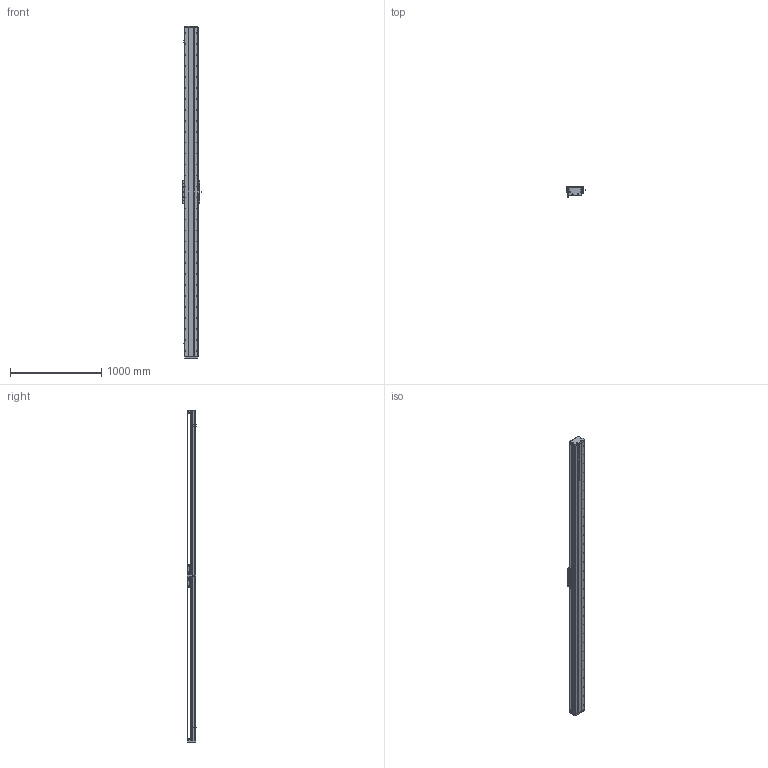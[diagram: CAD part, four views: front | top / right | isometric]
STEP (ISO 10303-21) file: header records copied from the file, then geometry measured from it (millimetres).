
FILE_DESCRIPTION (( 'STEP AP203' ), '1' );
FILE_NAME ('DA-C145-C3-T3300-C010-0.2 眻盄萇儂.STEP', '2025-08-14T01:38:22', ( '' ), ( '' ), 'SwSTEP 2.0', 'SolidWorks 2019', '' );
FILE_SCHEMA (( 'CONFIG_CONTROL_DESIGN' ));
Length unit declared in the file: millimetre
Products named in the file (32): CU145-W 幗紩賑怢; 葩璃 鞠褒情蹟譫 M3^DA-C145-C3-T-C010-0.2; 葩璃 PM-T45^DA-C145-C3-T-C010-0.2; 复件 DA146 钢带垫块^复件 CU145 钢带组件_DA-C145-C3-T-C010-0.2; TAY01-M8; 66245-CU145-HT-W-00 賑雄怢啣(3D芞祧)(00); 复件 DA145-C3-YB-A-00 压板A^CU145-W 滚珠滑台; 复件 内六角平端紧定螺钉 GB.T77-2000 M5×10^CU145-W 滚珠滑台; 复件 DA146 钢带拉块^复件 CU145 钢带组件_DA-C145-C3-T-C010-0.2; 复件 DA145-GYP-00 光电感应片^DA-C145-C3-T-C010-0.2; 葩璃 CKMA01-W060-TRL^DA-C145-C3-T-C010-0.2; 复件 DA145-C3-DK-00 挡块^CU145-W 滚珠滑台; 葩璃 DA95-HXJ-00 遣喳砎蝶^DA-C145-C3-T-C010-0.2; 葩璃 DA145-C3-DP-A-00 菜えA^CU145-W 幗紩賑怢; DA-C145-C3-T3300-C010-0.2 眻盄萇儂; 葩璃 XD-U-02L 棠掑喜^DA-C145-C3-T-C010-0.2; 复件 DA145-C3-YB-B-00 压板B^CU145-W 滚珠滑台; 复件 DA145-DG 钢带端盖^复件 CU145 钢带组件_DA-C145-C3-T-C010-0.2; 葩璃 CKM03-W060-C1C2-TP-0.2^DA-C145-C3-T-C010-0.2; 复件 半圆头内六角螺钉 M3×6^CU145-W 滚珠滑台; 复件 DA95-HK-GT-00 滑块钢轨^CU145-W-00 一体化滑动台板; 葩璃 DA95-GT-T-00^IU-CU145-L 菁釱絳寢; IU-CU145-L 菁釱絳寢; CU145-W-00 珨极趙賑雄怢啣; IU-CU145-L-00 菁釱(L3600); 复件 DA95-DB-00  挡板^CU145-W 滚珠滑台; 葩璃 DA145-C3-DP-B-00 菜えB^CU145-W 幗紩賑怢; 复件 DA145 钢带^复件 CU145 钢带组件_DA-C145-C3-T-C010-0.2; 复件 DA95-MFP-01 密封片^CU145-W 滚珠滑台; 葩璃 DMA-010-0.2 黍杅芛^DA-C145-C3-T-C010-0.2; 复件 纯铜油杯 6x6mm^CU145-W 滚珠滑台; 葩璃 CU145 詩湍郪璃^DA-C145-C3-T-C010-0.2
Assembly tree (103 placements, depth 4):
  DA-C145-C3-T3300-C010-0.2 眻盄萇儂
    IU-CU145-L 菁釱絳寢
      IU-CU145-L-00 菁釱(L3600)
      葩璃 DA95-GT-T-00^IU-CU145-L 菁釱絳寢  x4
    葩璃 CU145 詩湍郪璃^DA-C145-C3-T-C010-0.2
      复件 DA145-DG 钢带端盖^复件 CU145 钢带组件_DA-C145-C3-T-C010-0.2  x2
      复件 DA146 钢带拉块^复件 CU145 钢带组件_DA-C145-C3-T-C010-0.2  x2
      复件 DA146 钢带垫块^复件 CU145 钢带组件_DA-C145-C3-T-C010-0.2  x2
      复件 DA145 钢带^复件 CU145 钢带组件_DA-C145-C3-T-C010-0.2
    CU145-W 幗紩賑怢
      CU145-W-00 珨极趙賑雄怢啣
        66245-CU145-HT-W-00 賑雄怢啣(3D芞祧)(00)
        复件 DA95-HK-GT-00 滑块钢轨^CU145-W-00 一体化滑动台板  x8
      复件 DA95-MFP-01 密封片^CU145-W 滚珠滑台  x8
      复件 DA95-DB-00  挡板^CU145-W 滚珠滑台  x8
      复件 内六角平端紧定螺钉 GB.T77-2000 M5×10^CU145-W 滚珠滑台  x4
      复件 纯铜油杯 6x6mm^CU145-W 滚珠滑台  x4
      复件 半圆头内六角螺钉 M3×6^CU145-W 滚珠滑台  x16
      复件 DA145-C3-DK-00 挡块^CU145-W 滚珠滑台  x4
      葩璃 DA145-C3-DP-B-00 菜えB^CU145-W 幗紩賑怢  x2
      复件 DA145-C3-YB-B-00 压板B^CU145-W 滚珠滑台  x2
      葩璃 DA145-C3-DP-A-00 菜えA^CU145-W 幗紩賑怢  x3
      复件 DA145-C3-YB-A-00 压板A^CU145-W 滚珠滑台  x3
      TAY01-M8  x4
    葩璃 CKMA01-W060-TRL^DA-C145-C3-T-C010-0.2
    葩璃 PM-T45^DA-C145-C3-T-C010-0.2  x3
    葩璃 XD-U-02L 棠掑喜^DA-C145-C3-T-C010-0.2
    葩璃 DA95-HXJ-00 遣喳砎蝶^DA-C145-C3-T-C010-0.2  x4
    复件 DA145-GYP-00 光电感应片^DA-C145-C3-T-C010-0.2
    葩璃 DMA-010-0.2 黍杅芛^DA-C145-C3-T-C010-0.2
    葩璃 CKM03-W060-C1C2-TP-0.2^DA-C145-C3-T-C010-0.2
    葩璃 鞠褒情蹟譫 M3^DA-C145-C3-T-C010-0.2  x8
Bounding box: 203.5 x 108.45 x 3636 mm (x, y, z)
Volume: 16285123.9 mm3; surface area: 5549831.4 mm2
Topology: 99 solids, 131 shells, 5045 faces, 14924 edges, 9414 vertices
Faces by surface type: cylinder 2665, plane 1612, cone 690, torus 74, sphere 4
Entity records: 151690 total; most frequent: CARTESIAN_POINT 48030, ORIENTED_EDGE 21368, DIRECTION 19747, EDGE_CURVE 10684, AXIS2_PLACEMENT_3D 7442, VERTEX_POINT 6953, VECTOR 4863, LINE 4863
